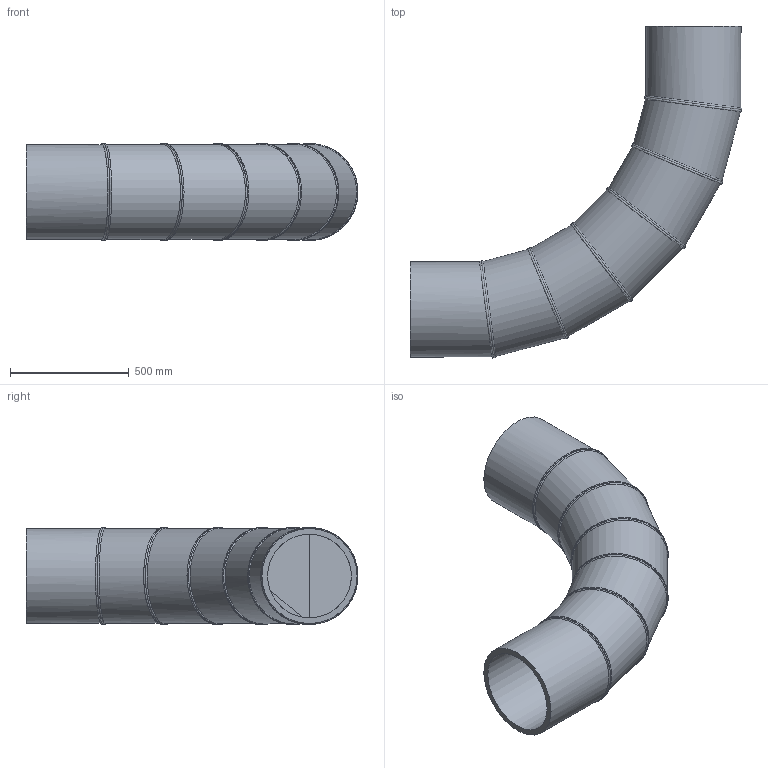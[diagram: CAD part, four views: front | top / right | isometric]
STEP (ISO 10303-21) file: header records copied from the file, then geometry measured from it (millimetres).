
FILE_DESCRIPTION(/* description */ ('Unknown'),/* implementation_level */ '2;1');
FILE_NAME(/* name */ 'Curva 90° a settore DE400 SDR17',/* time_stamp */ '2022-07-27T09:40:54+02:00',/* author */ ('Unknown'),/* organization */ ('Unknown'),/* preprocessor_version */ 'ST-DEVELOPER v18.102',/* originating_system */ 'Solid Edge',/* authorisation */ 'Unknown');
FILE_SCHEMA (('AUTOMOTIVE_DESIGN {1 0 10303 214 3 1 1}'));
Length unit declared in the file: millimetre
Products named in the file (3): Curva 90° a settore DE400 SDR17; Tubo x Gomito 90° DE400 SDR17 - 2; Tubo x Gomito 90° DE400 SDR17 - 1
Assembly tree (7 placements, depth 2):
  Curva 90° a settore DE400 SDR17
    Tubo x Gomito 90° DE400 SDR17 - 2  x5
    Tubo x Gomito 90° DE400 SDR17 - 1  x2
Bounding box: 1396.55 x 1396.55 x 407.99 mm (x, y, z)
Volume: 55462804.6 mm3; surface area: 5114921.9 mm2
Topology: 7 solids, 7 shells, 64 faces, 143 edges, 93 vertices
Faces by surface type: cylinder 38, plane 14, bspline 12
Full cylindrical faces by diameter (mm): 352.6 x7, 400 x7
Entity records: 2408 total; most frequent: CARTESIAN_POINT 1985, DIRECTION 78, ORIENTED_EDGE 52, AXIS2_PLACEMENT_3D 39, EDGE_LOOP 28, FACE_BOUND 28, EDGE_CURVE 26, VERTEX_POINT 20
